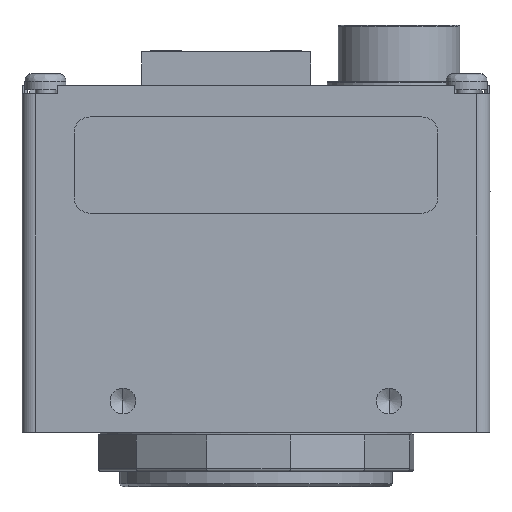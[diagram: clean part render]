
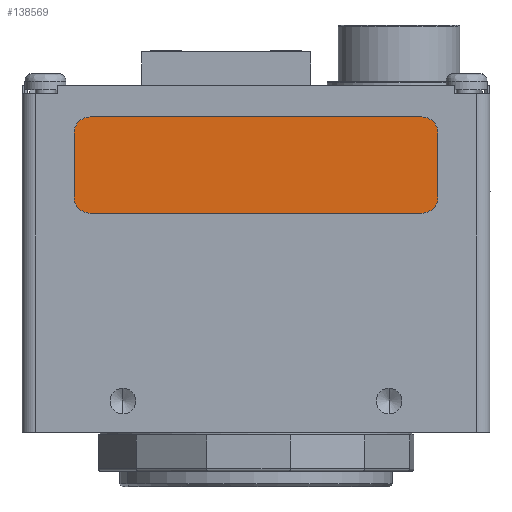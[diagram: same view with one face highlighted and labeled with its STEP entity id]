
A CAD part, front view. The second image highlights one B-rep face of the part: STEP entity #138569.
In plain terms, the highlighted planar face has unit normal (0, -1, 0).
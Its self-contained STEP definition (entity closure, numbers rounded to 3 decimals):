
#1719 = CARTESIAN_POINT ( 'NONE',  ( -16.193, -16.002, 21.406 ) ) ;
#6966 = CARTESIAN_POINT ( 'NONE',  ( 17.78, -16.002, 29.217 ) ) ;
#7198 = AXIS2_PLACEMENT_3D ( 'NONE', #107108, #35159, #118946 ) ;
#7327 = EDGE_CURVE ( 'NONE', #147817, #121312, #22537, .T. ) ;
#9520 = CIRCLE ( 'NONE', #59505, 1.587 ) ;
#9802 = EDGE_CURVE ( 'NONE', #77300, #140657, #117077, .T. ) ;
#13465 = VERTEX_POINT ( 'NONE', #33130 ) ;
#14041 = DIRECTION ( 'NONE',  ( 1., 0., 0. ) ) ;
#15765 = ORIENTED_EDGE ( 'NONE', *, *, #9802, .T. ) ;
#17571 = CARTESIAN_POINT ( 'NONE',  ( 17.78, -16.002, 29.217 ) ) ;
#22537 = LINE ( 'NONE', #49600, #145748 ) ;
#25000 = CIRCLE ( 'NONE', #70753, 1.587 ) ;
#27847 = DIRECTION ( 'NONE',  ( 0., 0., -1. ) ) ;
#28034 = DIRECTION ( 'NONE',  ( 0., -1., 0. ) ) ;
#28056 = CARTESIAN_POINT ( 'NONE',  ( 16.192, -16.002, 22.994 ) ) ;
#28145 = ORIENTED_EDGE ( 'NONE', *, *, #129972, .T. ) ;
#28628 = CARTESIAN_POINT ( 'NONE',  ( 16.192, -16.002, 30.804 ) ) ;
#29044 = VERTEX_POINT ( 'NONE', #6966 ) ;
#33130 = CARTESIAN_POINT ( 'NONE',  ( 16.192, -16.002, 21.406 ) ) ;
#34690 = CARTESIAN_POINT ( 'NONE',  ( -17.78, -16.002, 29.217 ) ) ;
#34915 = DIRECTION ( 'NONE',  ( 0., 0., -1. ) ) ;
#35062 = LINE ( 'NONE', #17571, #98970 ) ;
#35159 = DIRECTION ( 'NONE',  ( 0., -1., 0. ) ) ;
#35513 = EDGE_CURVE ( 'NONE', #13465, #92569, #9520, .T. ) ;
#36262 = ORIENTED_EDGE ( 'NONE', *, *, #35513, .T. ) ;
#39380 = CARTESIAN_POINT ( 'NONE',  ( -16.192, -16.002, 22.994 ) ) ;
#43378 = CARTESIAN_POINT ( 'NONE',  ( -16.192, -16.002, 30.804 ) ) ;
#47258 = ORIENTED_EDGE ( 'NONE', *, *, #144360, .T. ) ;
#48908 = DIRECTION ( 'NONE',  ( -1., 0., 0. ) ) ;
#49600 = CARTESIAN_POINT ( 'NONE',  ( -16.192, -16.002, 30.804 ) ) ;
#51532 = DIRECTION ( 'NONE',  ( 0., 0., -1. ) ) ;
#56688 = CIRCLE ( 'NONE', #7198, 1.587 ) ;
#59505 = AXIS2_PLACEMENT_3D ( 'NONE', #28056, #28034, #27847 ) ;
#64087 = DIRECTION ( 'NONE',  ( 0., 0., -1. ) ) ;
#64250 = DIRECTION ( 'NONE',  ( 0., -1., 0. ) ) ;
#64287 = CARTESIAN_POINT ( 'NONE',  ( 16.192, -16.002, 29.217 ) ) ;
#69999 = EDGE_CURVE ( 'NONE', #29044, #147817, #25000, .T. ) ;
#70687 = CARTESIAN_POINT ( 'NONE',  ( 16.192, -16.002, 22.994 ) ) ;
#70753 = AXIS2_PLACEMENT_3D ( 'NONE', #64287, #64250, #64087 ) ;
#75085 = CARTESIAN_POINT ( 'NONE',  ( 17.78, -16.002, 22.994 ) ) ;
#77300 = VERTEX_POINT ( 'NONE', #144454 ) ;
#82688 = DIRECTION ( 'NONE',  ( 0., 0., -1. ) ) ;
#84845 = EDGE_CURVE ( 'NONE', #134902, #13465, #143893, .T. ) ;
#89910 = DIRECTION ( 'NONE',  ( 0., 0., 1. ) ) ;
#91590 = CARTESIAN_POINT ( 'NONE',  ( -17.78, -16.002, 22.994 ) ) ;
#92569 = VERTEX_POINT ( 'NONE', #75085 ) ;
#94034 = ORIENTED_EDGE ( 'NONE', *, *, #69999, .T. ) ;
#98970 = VECTOR ( 'NONE', #89910, 1000. ) ;
#107108 = CARTESIAN_POINT ( 'NONE',  ( -16.192, -16.002, 29.217 ) ) ;
#110381 = CIRCLE ( 'NONE', #143033, 1.587 ) ;
#112688 = VECTOR ( 'NONE', #14041, 1000. ) ;
#115957 = ORIENTED_EDGE ( 'NONE', *, *, #84845, .T. ) ;
#117077 = LINE ( 'NONE', #34690, #148052 ) ;
#117211 = FACE_OUTER_BOUND ( 'NONE', #120839, .T. ) ;
#118946 = DIRECTION ( 'NONE',  ( 0., 0., -1. ) ) ;
#119566 = ORIENTED_EDGE ( 'NONE', *, *, #154335, .T. ) ;
#120839 = EDGE_LOOP ( 'NONE', ( #47258, #115957, #36262, #119566, #94034, #136561, #28145, #15765 ) ) ;
#121312 = VERTEX_POINT ( 'NONE', #43378 ) ;
#122930 = CARTESIAN_POINT ( 'NONE',  ( -16.192, -16.002, 21.406 ) ) ;
#123106 = DIRECTION ( 'NONE',  ( 0., -1., 0. ) ) ;
#124453 = AXIS2_PLACEMENT_3D ( 'NONE', #70687, #153026, #82688 ) ;
#129972 = EDGE_CURVE ( 'NONE', #121312, #77300, #56688, .T. ) ;
#134902 = VERTEX_POINT ( 'NONE', #122930 ) ;
#136561 = ORIENTED_EDGE ( 'NONE', *, *, #7327, .T. ) ;
#138569 = ADVANCED_FACE ( 'NONE', ( #117211 ), #140128, .T. ) ;
#140128 = PLANE ( 'NONE',  #124453 ) ;
#140657 = VERTEX_POINT ( 'NONE', #91590 ) ;
#143033 = AXIS2_PLACEMENT_3D ( 'NONE', #39380, #123106, #51532 ) ;
#143893 = LINE ( 'NONE', #1719, #112688 ) ;
#144360 = EDGE_CURVE ( 'NONE', #140657, #134902, #110381, .T. ) ;
#144454 = CARTESIAN_POINT ( 'NONE',  ( -17.78, -16.002, 29.217 ) ) ;
#145748 = VECTOR ( 'NONE', #48908, 1000. ) ;
#147817 = VERTEX_POINT ( 'NONE', #28628 ) ;
#148052 = VECTOR ( 'NONE', #34915, 1000. ) ;
#153026 = DIRECTION ( 'NONE',  ( 0., -1., 0. ) ) ;
#154335 = EDGE_CURVE ( 'NONE', #92569, #29044, #35062, .T. ) ;
